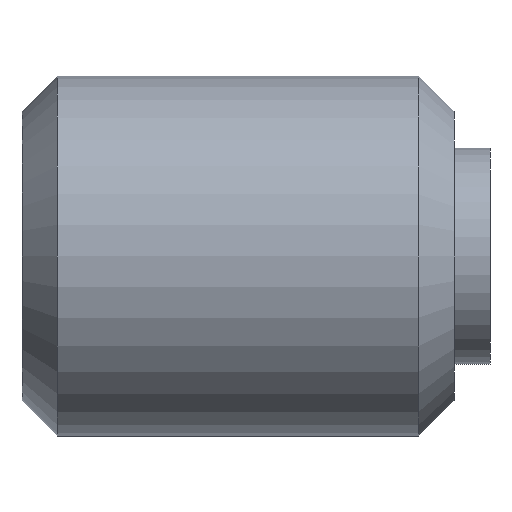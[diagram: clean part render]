
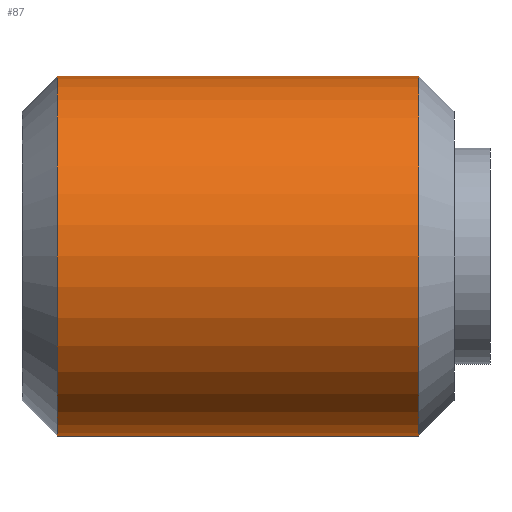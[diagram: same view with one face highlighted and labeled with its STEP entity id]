
A CAD part, left-side view. The second image highlights one B-rep face of the part: STEP entity #87.
In plain terms, the highlighted cylindrical face has radius 2.5 mm (diameter 5 mm), a full revolution.
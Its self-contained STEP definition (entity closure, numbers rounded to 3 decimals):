
#87 = ADVANCED_FACE( '', ( #118, #119 ), #120, .T. );
#118 = FACE_OUTER_BOUND( '', #152, .T. );
#119 = FACE_OUTER_BOUND( '', #153, .T. );
#120 = CYLINDRICAL_SURFACE( '', #154, 2.5 );
#152 = EDGE_LOOP( '', ( #238 ) );
#153 = EDGE_LOOP( '', ( #239 ) );
#154 = AXIS2_PLACEMENT_3D( '', #240, #241, #242 );
#238 = ORIENTED_EDGE( '', *, *, #270, .F. );
#239 = ORIENTED_EDGE( '', *, *, #271, .T. );
#240 = CARTESIAN_POINT( '', ( 0., 0., 0. ) );
#241 = DIRECTION( '', ( 0., 1., 0. ) );
#242 = DIRECTION( '', ( 0., 0., -1. ) );
#270 = EDGE_CURVE( '', #310, #310, #311, .T. );
#271 = EDGE_CURVE( '', #312, #312, #313, .T. );
#310 = VERTEX_POINT( '', #370 );
#311 = CIRCLE( '', #371, 2.5 );
#312 = VERTEX_POINT( '', #372 );
#313 = CIRCLE( '', #373, 2.5 );
#370 = CARTESIAN_POINT( '', ( 0., 0.991, -2.5 ) );
#371 = AXIS2_PLACEMENT_3D( '', #404, #405, #406 );
#372 = CARTESIAN_POINT( '', ( 0., 6.01, -2.5 ) );
#373 = AXIS2_PLACEMENT_3D( '', #407, #408, #409 );
#404 = CARTESIAN_POINT( '', ( 0., 0.991, 0. ) );
#405 = DIRECTION( '', ( 0., -1., 0. ) );
#406 = DIRECTION( '', ( 0., 0., -1. ) );
#407 = CARTESIAN_POINT( '', ( 0., 6.01, 0. ) );
#408 = DIRECTION( '', ( 0., -1., 0. ) );
#409 = DIRECTION( '', ( 0., 0., -1. ) );
